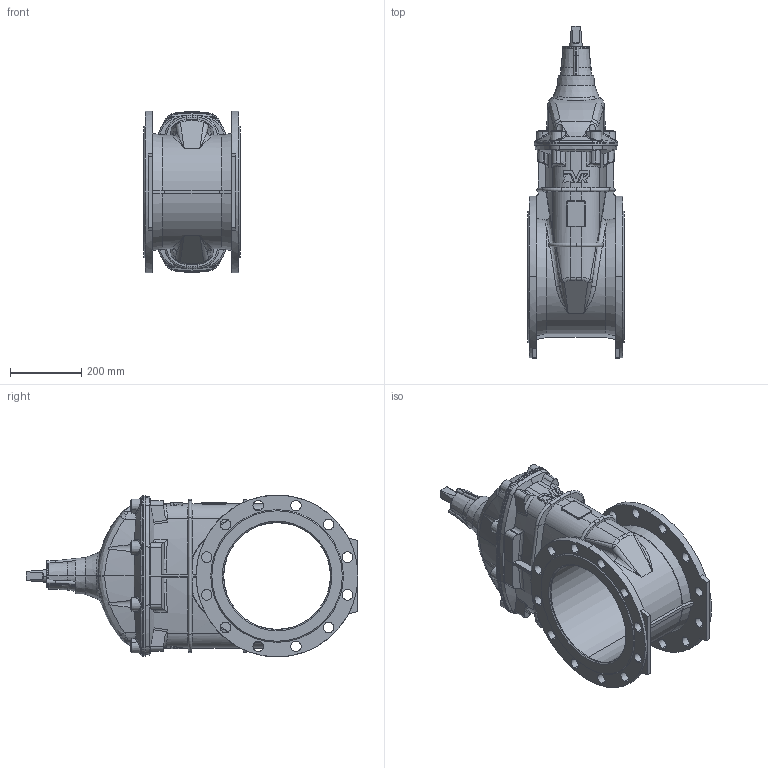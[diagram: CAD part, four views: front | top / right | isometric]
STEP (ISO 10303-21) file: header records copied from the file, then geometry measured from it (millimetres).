
FILE_DESCRIPTION (( 'STEP AP203' ), '1' );
FILE_NAME ('O_06_30_DN300_XXXXX87_PN16_REV02.step', '2021-01-11T11:00:09', ( '' ), ( '' ), 'SwSTEP 2.0', 'SolidWorks 2019', '' );
FILE_SCHEMA (( 'CONFIG_CONTROL_DESIGN' ));
Length unit declared in the file: millimetre
Products named in the file (1): O_06_30_DN300_XXXXX87_PN16_REV02
Bounding box: 270 x 933.55 x 455 mm (x, y, z)
Volume: 30888307.8 mm3; surface area: 1450876.6 mm2
Topology: 1 solids, 1 shells, 824 faces, 2219 edges, 1403 vertices
Faces by surface type: cylinder 235, plane 217, bspline 166, cone 138, torus 68
Entity records: 35316 total; most frequent: CARTESIAN_POINT 16666, ORIENTED_EDGE 4422, DIRECTION 3287, EDGE_CURVE 2211, VERTEX_POINT 1403, AXIS2_PLACEMENT_3D 1322, EDGE_LOOP 888, FACE_OUTER_BOUND 824
